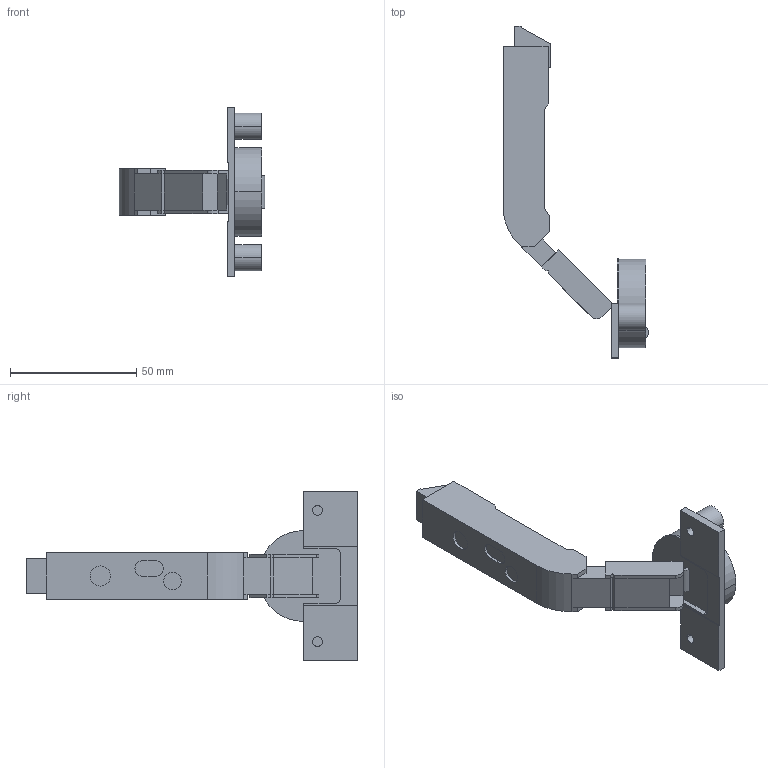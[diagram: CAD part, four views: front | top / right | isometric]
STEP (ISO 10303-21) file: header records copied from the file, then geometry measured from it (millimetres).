
FILE_DESCRIPTION (( 'STEP AP214' ), '1' );
FILE_NAME ('Scharnier T Click-on PCC H_BB, Dübel.step', '2014-03-25T12:10:34', ( '' ), ( '' ), 'SwSTEP 2.0', 'SolidWorks 2013', '' );
FILE_SCHEMA (( 'AUTOMOTIVE_DESIGN' ));
Length unit declared in the file: millimetre
Products named in the file (1): Scharnier T Click-on PCC H_BB, Dübel
Bounding box: 57.59 x 131.39 x 67 mm (x, y, z)
Volume: 45957 mm3; surface area: 15105.9 mm2
Topology: 1 solids, 1 shells, 102 faces, 254 edges, 164 vertices
Faces by surface type: plane 76, cylinder 26
Entity records: 3036 total; most frequent: CARTESIAN_POINT 521, DIRECTION 512, ORIENTED_EDGE 508, EDGE_CURVE 254, LINE 202, VECTOR 202, VERTEX_POINT 164, AXIS2_PLACEMENT_3D 155
